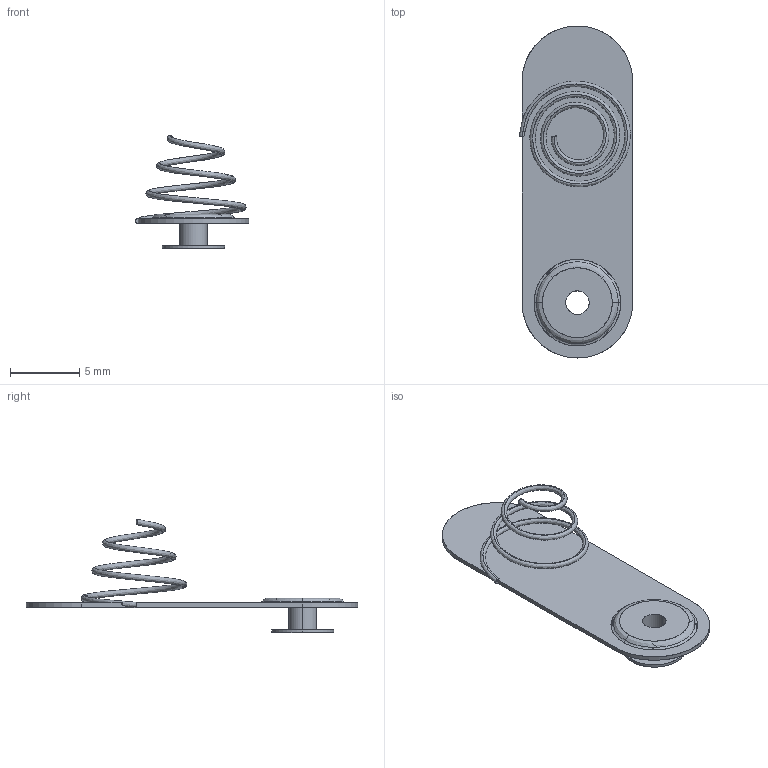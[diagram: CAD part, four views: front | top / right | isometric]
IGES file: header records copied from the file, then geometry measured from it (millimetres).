
Start section: SolidWorks IGES file using analytic representation for surfaces
Global section: file name: C:\Users\AndreBernot\Downloads\K-RACER-L_3D_SW\K-RACER-L_3D_SW\RESSORT PILE.IGS; native system: SolidWorks 2015; preprocessor: SolidWorks 2015; author: AndreBernot; date: 170922.151450; units: millimetre
Bounding box: 8.2 x 24 x 8.2 mm (x, y, z)
Surface area: 487.5 mm2 (no closed solid volume)
Topology: 0 solids, 0 shells, 25 faces, 461 edges, 461 vertices
Faces by surface type: bspline 17, revolution 8
